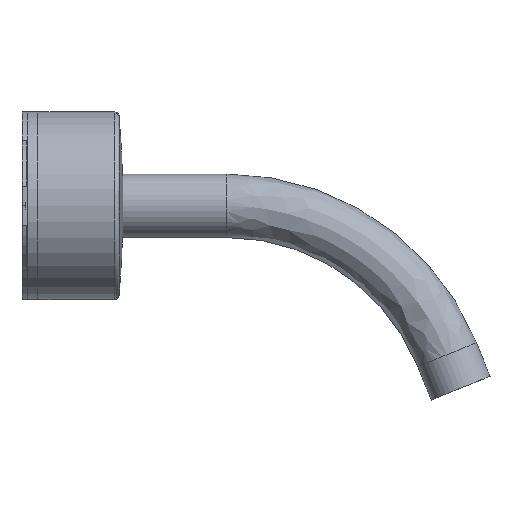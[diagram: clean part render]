
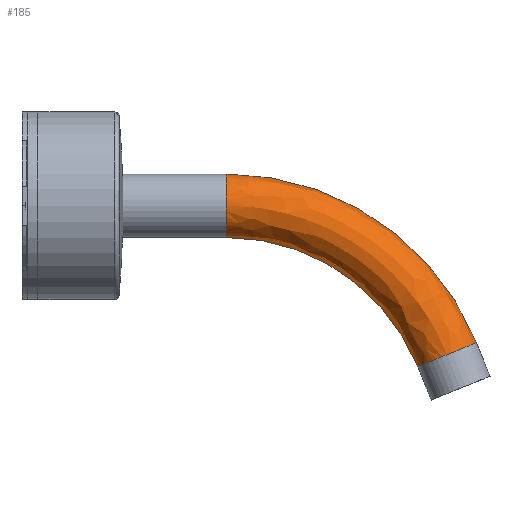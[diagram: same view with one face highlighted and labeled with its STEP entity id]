
A CAD part, left-side view. The second image highlights one B-rep face of the part: STEP entity #185.
In plain terms, the highlighted free-form (B-spline) face has degree [2, 2] with [5, 3] control points.
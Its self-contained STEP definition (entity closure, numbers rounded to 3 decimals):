
#53=CARTESIAN_POINT('',(0.0,-157.51,-47.474));
#54=VERTEX_POINT('',#53);
#61=CARTESIAN_POINT('',(0.0,-137.112,-55.716));
#62=VERTEX_POINT('',#61);
#63=CARTESIAN_POINT('',(0.0,-147.311,-51.595));
#64=DIRECTION('',(0.0,0.375,0.927));
#65=DIRECTION('',(0.0,0.927,-0.375));
#66=AXIS2_PLACEMENT_3D('',#63,#64,#65);
#67=CIRCLE('',#66,11.0);
#68=EDGE_CURVE('',#62,#54,#67,.T.);
#121=CARTESIAN_POINT('',(0.0,-70.819,-11.));
#122=VERTEX_POINT('',#121);
#123=CARTESIAN_POINT('',(0.0,-70.819,-82.5));
#124=DIRECTION('',(-1.,0.0,0.0));
#125=DIRECTION('',(0.0,-0.927,0.375));
#126=AXIS2_PLACEMENT_3D('',#123,#124,#125);
#127=CIRCLE('',#126,71.5);
#128=EDGE_CURVE('',#62,#122,#127,.T.);
#130=CARTESIAN_POINT('',(0.0,-70.819,11.));
#131=VERTEX_POINT('',#130);
#139=CARTESIAN_POINT('',(0.0,-70.819,-82.5));
#140=DIRECTION('',(-1.,0.0,0.0));
#141=DIRECTION('',(0.0,-0.927,0.375));
#142=AXIS2_PLACEMENT_3D('',#139,#140,#141);
#143=CIRCLE('',#142,93.5);
#144=EDGE_CURVE('',#54,#131,#143,.T.);
#150=CARTESIAN_POINT('',(0.,-70.819,11.));
#151=CARTESIAN_POINT('',(-11.0,-70.819,11.));
#152=CARTESIAN_POINT('',(-11.0,-70.819,0.));
#153=CARTESIAN_POINT('',(-11.,-70.819,-11.));
#154=CARTESIAN_POINT('',(0.,-70.819,-11.));
#155=CARTESIAN_POINT('',(0.,-133.885,11.));
#156=CARTESIAN_POINT('',(-11.,-133.885,11.));
#157=CARTESIAN_POINT('',(-11.0,-126.466,0.));
#158=CARTESIAN_POINT('',(-11.,-119.046,-11.));
#159=CARTESIAN_POINT('',(0.,-119.046,-11.));
#160=CARTESIAN_POINT('',(0.,-157.51,-47.474));
#161=CARTESIAN_POINT('',(-11.,-157.51,-47.474));
#162=CARTESIAN_POINT('',(-11.,-147.311,-51.595));
#163=CARTESIAN_POINT('',(-11.0,-137.112,-55.716));
#164=CARTESIAN_POINT('',(0.,-137.112,-55.716));
#172=(BOUNDED_SURFACE()B_SPLINE_SURFACE(2,2,((#150,#155,#160),(#151,#156,#161),(#152,#157,#162),(#153,#158,#163),(#154,#159,#164)),.UNSPECIFIED.,.F.,.F.,.U.)B_SPLINE_SURFACE_WITH_KNOTS((3,2,3),(3,3),(0.,0.25,0.5),(0.314,0.5),.UNSPECIFIED.)GEOMETRIC_REPRESENTATION_ITEM()RATIONAL_B_SPLINE_SURFACE(((0.889,0.782,1.),(0.629,0.553,0.707),(0.889,0.782,1.),(0.629,0.553,0.707),(0.889,0.782,1.)))REPRESENTATION_ITEM('')SURFACE());
#173=ORIENTED_EDGE('',*,*,#144,.T.);
#174=CARTESIAN_POINT('',(0.0,-70.819,0.));
#175=DIRECTION('',(0.0,1.0,0.));
#176=DIRECTION('',(0.0,0.,-1.0));
#177=AXIS2_PLACEMENT_3D('',#174,#175,#176);
#178=CIRCLE('',#177,11.0);
#179=EDGE_CURVE('',#122,#131,#178,.T.);
#180=ORIENTED_EDGE('',*,*,#179,.F.);
#181=ORIENTED_EDGE('',*,*,#128,.F.);
#182=ORIENTED_EDGE('',*,*,#68,.T.);
#183=EDGE_LOOP('',(#173,#180,#181,#182));
#184=FACE_OUTER_BOUND('',#183,.T.);
#185=ADVANCED_FACE('',(#184),#172,.T.);
